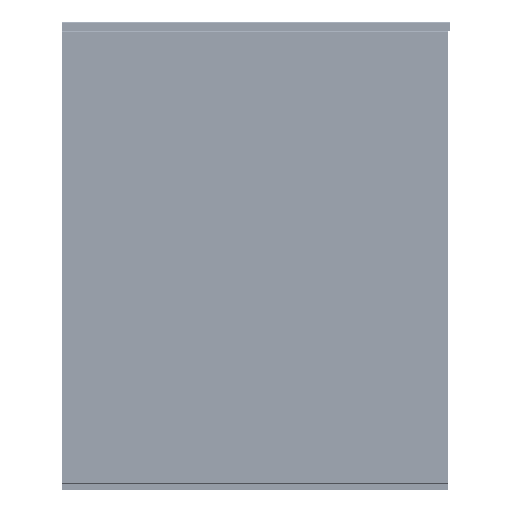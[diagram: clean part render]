
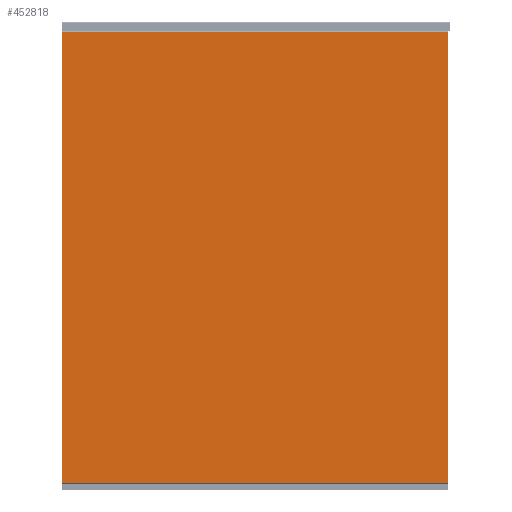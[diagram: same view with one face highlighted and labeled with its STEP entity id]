
A CAD part, left-side view. The second image highlights one B-rep face of the part: STEP entity #452818.
In plain terms, the highlighted planar face has unit normal (-1, 0, 0).
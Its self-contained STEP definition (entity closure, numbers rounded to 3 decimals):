
#452557=CARTESIAN_POINT('',(8622.756,-1107.736,582.5));
#452558=VERTEX_POINT('',#452557);
#452565=CARTESIAN_POINT('',(8622.756,-1107.943,582.293));
#452566=VERTEX_POINT('',#452565);
#452567=CARTESIAN_POINT('',(8622.756,-1107.736,582.5));
#452568=DIRECTION('',(0.0,-0.707,-0.707));
#452569=VECTOR('',#452568,0.293);
#452570=LINE('',#452567,#452569);
#452571=EDGE_CURVE('',#452558,#452566,#452570,.T.);
#452588=CARTESIAN_POINT('',(8622.756,-611.15,582.5));
#452589=VERTEX_POINT('',#452588);
#452596=CARTESIAN_POINT('',(8622.756,-611.15,582.5));
#452597=DIRECTION('',(0.0,-1.0,0.0));
#452598=VECTOR('',#452597,496.586);
#452599=LINE('',#452596,#452598);
#452600=EDGE_CURVE('',#452589,#452558,#452599,.T.);
#452611=CARTESIAN_POINT('',(8622.756,-1107.943,0.707));
#452612=VERTEX_POINT('',#452611);
#452613=CARTESIAN_POINT('',(8622.756,-1107.943,582.293));
#452614=DIRECTION('',(0.0,0.0,-1.0));
#452615=VECTOR('',#452614,581.586);
#452616=LINE('',#452613,#452615);
#452617=EDGE_CURVE('',#452566,#452612,#452616,.T.);
#452643=CARTESIAN_POINT('',(8622.756,-610.943,582.293));
#452644=VERTEX_POINT('',#452643);
#452651=CARTESIAN_POINT('',(8622.756,-610.943,582.293));
#452652=DIRECTION('',(0.0,-0.707,0.707));
#452653=VECTOR('',#452652,0.293);
#452654=LINE('',#452651,#452653);
#452655=EDGE_CURVE('',#452644,#452589,#452654,.T.);
#452666=CARTESIAN_POINT('',(8622.756,-1107.736,0.5));
#452667=VERTEX_POINT('',#452666);
#452668=CARTESIAN_POINT('',(8622.756,-1107.943,0.707));
#452669=DIRECTION('',(0.0,0.707,-0.707));
#452670=VECTOR('',#452669,0.293);
#452671=LINE('',#452668,#452670);
#452672=EDGE_CURVE('',#452612,#452667,#452671,.T.);
#452698=CARTESIAN_POINT('',(8622.756,-610.943,0.707));
#452699=VERTEX_POINT('',#452698);
#452706=CARTESIAN_POINT('',(8622.756,-610.943,0.707));
#452707=DIRECTION('',(0.0,0.0,1.0));
#452708=VECTOR('',#452707,581.586);
#452709=LINE('',#452706,#452708);
#452710=EDGE_CURVE('',#452699,#452644,#452709,.T.);
#452721=CARTESIAN_POINT('',(8622.756,-611.15,0.5));
#452722=VERTEX_POINT('',#452721);
#452723=CARTESIAN_POINT('',(8622.756,-1107.736,0.5));
#452724=DIRECTION('',(0.0,1.0,0.0));
#452725=VECTOR('',#452724,496.586);
#452726=LINE('',#452723,#452725);
#452727=EDGE_CURVE('',#452667,#452722,#452726,.T.);
#452759=CARTESIAN_POINT('',(8622.756,-611.15,0.5));
#452760=DIRECTION('',(0.0,0.707,0.707));
#452761=VECTOR('',#452760,0.293);
#452762=LINE('',#452759,#452761);
#452763=EDGE_CURVE('',#452722,#452699,#452762,.T.);
#452803=CARTESIAN_POINT('',(8622.756,-610.443,0.));
#452804=DIRECTION('',(-1.0,0.0,0.0));
#452805=DIRECTION('',(0.0,-1.0,0.0));
#452806=AXIS2_PLACEMENT_3D('',#452803,#452804,#452805);
#452807=PLANE('',#452806);
#452808=ORIENTED_EDGE('',*,*,#452571,.F.);
#452809=ORIENTED_EDGE('',*,*,#452600,.F.);
#452810=ORIENTED_EDGE('',*,*,#452655,.F.);
#452811=ORIENTED_EDGE('',*,*,#452710,.F.);
#452812=ORIENTED_EDGE('',*,*,#452763,.F.);
#452813=ORIENTED_EDGE('',*,*,#452727,.F.);
#452814=ORIENTED_EDGE('',*,*,#452672,.F.);
#452815=ORIENTED_EDGE('',*,*,#452617,.F.);
#452816=EDGE_LOOP('',(#452808,#452809,#452810,#452811,#452812,#452813,#452814,#452815));
#452817=FACE_OUTER_BOUND('',#452816,.T.);
#452818=ADVANCED_FACE('',(#452817),#452807,.T.);
